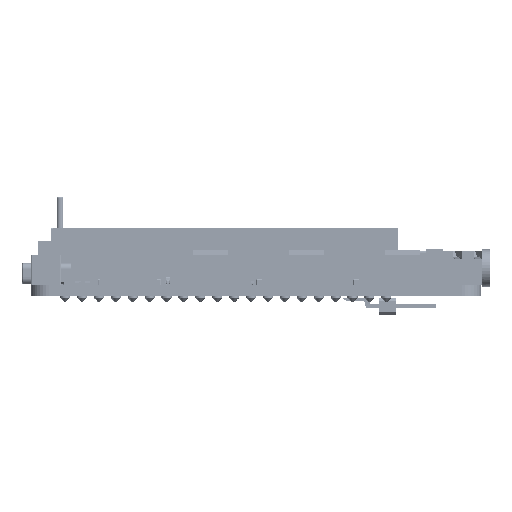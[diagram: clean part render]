
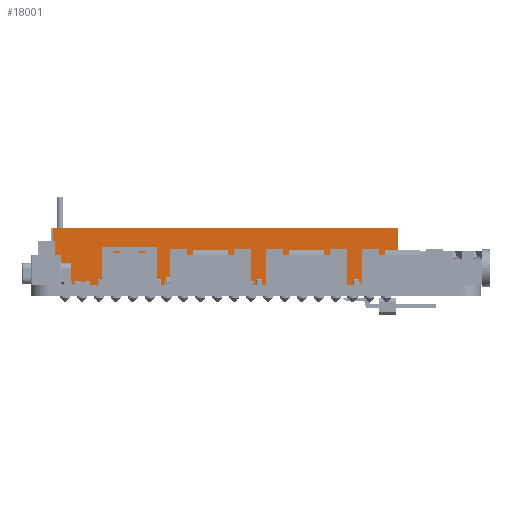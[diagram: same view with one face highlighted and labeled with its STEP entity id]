
A CAD part, left-side view. The second image highlights one B-rep face of the part: STEP entity #18001.
In plain terms, the highlighted planar face has unit normal (-1, 0, 0).
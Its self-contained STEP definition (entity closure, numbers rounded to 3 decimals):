
#18001=ADVANCED_FACE('',(#23152),#20237,.T.);
#20237=PLANE('',#70999);
#23152=FACE_OUTER_BOUND('',#26899,.T.);
#26899=EDGE_LOOP('',(#40652,#40653,#40654,#40655));
#40652=ORIENTED_EDGE('',*,*,#54881,.T.);
#40653=ORIENTED_EDGE('',*,*,#54882,.F.);
#40654=ORIENTED_EDGE('',*,*,#54883,.F.);
#40655=ORIENTED_EDGE('',*,*,#54884,.T.);
#47466=VERTEX_POINT('',#117151);
#47467=VERTEX_POINT('',#117152);
#47468=VERTEX_POINT('',#117154);
#47469=VERTEX_POINT('',#117156);
#54881=EDGE_CURVE('',#47466,#47467,#60666,.T.);
#54882=EDGE_CURVE('',#47468,#47467,#60667,.T.);
#54883=EDGE_CURVE('',#47469,#47468,#60668,.T.);
#54884=EDGE_CURVE('',#47469,#47466,#60669,.T.);
#60666=LINE('',#117150,#66339);
#60667=LINE('',#117153,#66340);
#60668=LINE('',#117155,#66341);
#60669=LINE('',#117157,#66342);
#66339=VECTOR('',#84312,1.);
#66340=VECTOR('',#84313,1.);
#66341=VECTOR('',#84314,1.);
#66342=VECTOR('',#84315,1.);
#70999=AXIS2_PLACEMENT_3D('',#117158,#84316,#84317);
#84312=DIRECTION('',(0.,0.,-1.));
#84313=DIRECTION('',(0.,1.,0.));
#84314=DIRECTION('',(0.,0.,-1.));
#84315=DIRECTION('',(0.,1.,0.));
#84316=DIRECTION('',(-1.,0.,0.));
#84317=DIRECTION('',(0.,0.,1.));
#117150=CARTESIAN_POINT('',(-2.5,25.5,8.5));
#117151=CARTESIAN_POINT('',(-2.5,25.5,8.5));
#117152=CARTESIAN_POINT('',(-2.5,25.5,0.));
#117153=CARTESIAN_POINT('',(-2.5,-25.5,0.));
#117154=CARTESIAN_POINT('',(-2.5,-25.5,0.));
#117155=CARTESIAN_POINT('',(-2.5,-25.5,8.5));
#117156=CARTESIAN_POINT('',(-2.5,-25.5,8.5));
#117157=CARTESIAN_POINT('',(-2.5,-25.5,8.5));
#117158=CARTESIAN_POINT('',(-2.5,-25.5,8.5));
